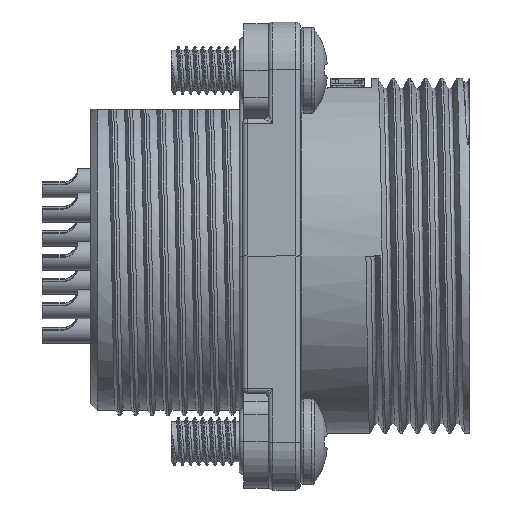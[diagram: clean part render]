
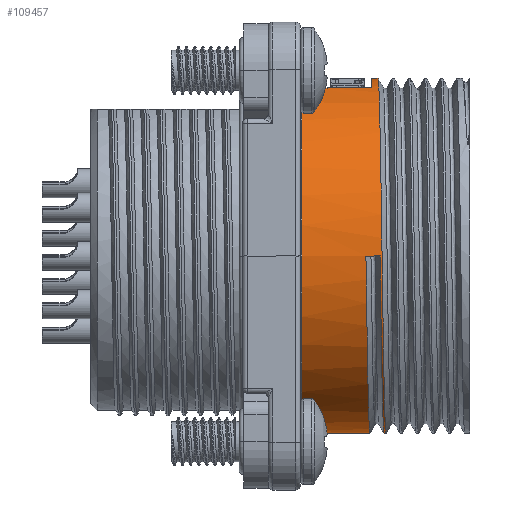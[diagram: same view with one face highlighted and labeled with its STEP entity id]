
A CAD part, front view. The second image highlights one B-rep face of the part: STEP entity #109457.
In plain terms, the highlighted cylindrical face has radius 11 mm (diameter 22 mm), a partial arc.
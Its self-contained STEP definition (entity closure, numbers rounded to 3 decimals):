
#96363=DIRECTION('',(1.,0.,0.));
#96364=VECTOR('',#96363,1.3);
#96365=CARTESIAN_POINT('',(13.1,0.,11.));
#96366=LINE('',#96365,#96364);
#96367=DIRECTION('',(1.,0.,0.));
#96368=VECTOR('',#96367,0.412);
#96369=CARTESIAN_POINT('',(17.4,0.,11.));
#96370=LINE('',#96369,#96368);
#96371=CARTESIAN_POINT('',(17.812,0.,
11.));
#96372=CARTESIAN_POINT('',(17.821,-0.55,
11.));
#96373=CARTESIAN_POINT('',(17.836,-1.647,
10.917));
#96374=CARTESIAN_POINT('',(17.86,-3.246,
10.553));
#96375=CARTESIAN_POINT('',(17.884,-4.771,
9.957));
#96376=CARTESIAN_POINT('',(17.907,-6.202,
9.136));
#96377=CARTESIAN_POINT('',(17.932,-7.509,
8.095));
#96378=CARTESIAN_POINT('',(17.955,-8.625,
6.893));
#96379=CARTESIAN_POINT('',(17.979,-9.559,
5.526));
#96380=CARTESIAN_POINT('',(18.003,-10.276,
4.04));
#96381=CARTESIAN_POINT('',(18.027,-10.763,
2.46));
#96382=CARTESIAN_POINT('',(18.05,-11.008,
0.845));
#96383=CARTESIAN_POINT('',(18.074,-11.012,
-0.812));
#96384=CARTESIAN_POINT('',(18.098,-10.766,
-2.45));
#96385=CARTESIAN_POINT('',(18.122,-10.283,
-4.018));
#96386=CARTESIAN_POINT('',(18.145,-9.577,
-5.494));
#96387=CARTESIAN_POINT('',(18.169,-8.644,
-6.87));
#96388=CARTESIAN_POINT('',(18.193,-7.518,
-8.086));
#96389=CARTESIAN_POINT('',(18.217,-6.238,
-9.11));
#96390=CARTESIAN_POINT('',(18.241,-4.817,
-9.935));
#96391=CARTESIAN_POINT('',(18.265,-3.265,
-10.548));
#96392=CARTESIAN_POINT('',(18.289,-1.638,
-10.919));
#96393=CARTESIAN_POINT('',(18.304,-0.544,
-11.));
#96394=CARTESIAN_POINT('',(18.312,0.,
-11.));
#96396=DIRECTION('',(-1.,0.,0.));
#96397=VECTOR('',#96396,0.124);
#96398=CARTESIAN_POINT('',(18.312,0.,
-11.));
#96399=LINE('',#96398,#96397);
#96400=CARTESIAN_POINT('',(18.188,0.,
-11.));
#96401=CARTESIAN_POINT('',(18.18,-0.522,
-11.));
#96402=CARTESIAN_POINT('',(18.165,-1.569,
-10.926));
#96403=CARTESIAN_POINT('',(18.142,-3.113,
-10.59));
#96404=CARTESIAN_POINT('',(18.119,-4.601,
-10.033));
#96405=CARTESIAN_POINT('',(18.096,-5.98,
-9.277));
#96406=CARTESIAN_POINT('',(18.074,-7.238,
-8.333));
#96407=CARTESIAN_POINT('',(18.051,-8.347,
-7.221));
#96408=CARTESIAN_POINT('',(18.028,-9.289,
-5.961));
#96409=CARTESIAN_POINT('',(18.006,-10.039,
-4.586));
#96410=CARTESIAN_POINT('',(17.983,-10.588,
-3.117));
#96411=CARTESIAN_POINT('',(17.96,-10.926,
-1.569));
#96412=CARTESIAN_POINT('',(17.945,-11.,
-0.523));
#96413=CARTESIAN_POINT('',(17.938,-11.,
0.));
#96415=DIRECTION('',(-1.,0.,0.));
#96416=VECTOR('',#96415,0.876);
#96417=CARTESIAN_POINT('',(17.938,-11.,
0.));
#96418=LINE('',#96417,#96416);
#96419=CARTESIAN_POINT('',(17.062,-11.,
0.));
#96420=CARTESIAN_POINT('',(17.07,-11.,
-0.524));
#96421=CARTESIAN_POINT('',(17.085,-10.926,
-1.572));
#96422=CARTESIAN_POINT('',(17.108,-10.587,
-3.124));
#96423=CARTESIAN_POINT('',(17.131,-10.036,
-4.594));
#96424=CARTESIAN_POINT('',(17.153,-9.284,
-5.97));
#96425=CARTESIAN_POINT('',(17.176,-8.34,
-7.229));
#96426=CARTESIAN_POINT('',(17.199,-7.23,
-8.34));
#96427=CARTESIAN_POINT('',(17.222,-5.972,
-9.282));
#96428=CARTESIAN_POINT('',(17.244,-4.593,
-10.037));
#96429=CARTESIAN_POINT('',(17.267,-3.107,
-10.592));
#96430=CARTESIAN_POINT('',(17.29,-1.565,
-10.926));
#96431=CARTESIAN_POINT('',(17.305,-0.521,
-11.));
#96432=CARTESIAN_POINT('',(17.312,0.,
-11.));
#96434=DIRECTION('',(-1.,0.,0.));
#96435=VECTOR('',#96434,4.212);
#96436=CARTESIAN_POINT('',(17.312,0.,
-11.));
#96437=LINE('',#96436,#96435);
#96438=CARTESIAN_POINT('',(13.1,0.,0.));
#96439=DIRECTION('',(1.,0.,0.));
#96440=DIRECTION('',(0.,0.,1.));
#96441=AXIS2_PLACEMENT_3D('',#96438,#96439,#96440);
#96481=CARTESIAN_POINT('',(17.812,0.,
11.));
#97340=CARTESIAN_POINT('',(18.312,0.,
-11.));
#97388=CARTESIAN_POINT('',(18.188,0.,
-11.));
#97426=CARTESIAN_POINT('',(17.4,0.,0.));
#97427=DIRECTION('',(1.,0.,0.));
#97428=DIRECTION('',(0.,0.,1.));
#97429=AXIS2_PLACEMENT_3D('',#97426,#97427,#97428);
#97439=DIRECTION('',(-1.,0.,0.));
#97440=VECTOR('',#97439,3.);
#97441=CARTESIAN_POINT('',(17.4,-3.5,10.428));
#97442=LINE('',#97441,#97440);
#97464=CARTESIAN_POINT('',(14.4,0.,0.));
#97465=DIRECTION('',(-1.,0.,0.));
#97466=DIRECTION('',(0.,-0.318,0.948));
#97467=AXIS2_PLACEMENT_3D('',#97464,#97465,#97466);
#100898=VERTEX_POINT('',#97340);
#100901=VERTEX_POINT('',#97388);
#100924=CARTESIAN_POINT('',(13.1,0.,-11.));
#100925=CARTESIAN_POINT('',(13.1,0.,11.));
#100926=VERTEX_POINT('',#100924);
#100927=VERTEX_POINT('',#100925);
#100928=CARTESIAN_POINT('',(17.312,0.,
-11.));
#100929=VERTEX_POINT('',#100928);
#100930=VERTEX_POINT('',#96481);
#100932=CARTESIAN_POINT('',(17.4,0.,11.));
#100934=VERTEX_POINT('',#100932);
#100937=CARTESIAN_POINT('',(14.4,0.,11.));
#100938=VERTEX_POINT('',#100937);
#100946=CARTESIAN_POINT('',(17.938,-11.,
0.));
#100948=VERTEX_POINT('',#100946);
#100950=CARTESIAN_POINT('',(17.062,-11.,
0.));
#100951=VERTEX_POINT('',#100950);
#101081=CARTESIAN_POINT('',(14.4,-3.5,10.428));
#101082=VERTEX_POINT('',#101081);
#101083=CARTESIAN_POINT('',(17.4,-3.5,10.428));
#101084=VERTEX_POINT('',#101083);
#109428=CARTESIAN_POINT('',(12.892,0.,0.));
#109429=DIRECTION('',(1.,0.,0.));
#109430=DIRECTION('',(0.,0.,-1.));
#109431=AXIS2_PLACEMENT_3D('',#109428,#109429,#109430);
#109432=CYLINDRICAL_SURFACE('',#109431,11.);
#109434=ORIENTED_EDGE('',*,*,#109433,.F.);
#109436=ORIENTED_EDGE('',*,*,#109435,.T.);
#109438=ORIENTED_EDGE('',*,*,#109437,.F.);
#109440=ORIENTED_EDGE('',*,*,#109439,.F.);
#109442=ORIENTED_EDGE('',*,*,#109441,.F.);
#109444=ORIENTED_EDGE('',*,*,#109443,.T.);
#109446=ORIENTED_EDGE('',*,*,#109445,.T.);
#109448=ORIENTED_EDGE('',*,*,#109447,.T.);
#109449=ORIENTED_EDGE('',*,*,#109190,.T.);
#109450=ORIENTED_EDGE('',*,*,#109412,.T.);
#109452=ORIENTED_EDGE('',*,*,#109451,.T.);
#109454=ORIENTED_EDGE('',*,*,#109453,.T.);
#109455=EDGE_LOOP('',(#109434,#109436,#109438,#109440,#109442,#109444,#109446,
#109448,#109449,#109450,#109452,#109454));
#109456=FACE_OUTER_BOUND('',#109455,.F.);
#109457=ADVANCED_FACE('',(#109456),#109432,.T.);
#96395=B_SPLINE_CURVE_WITH_KNOTS('',3,(#96371,#96372,#96373,#96374,#96375,
#96376,#96377,#96378,#96379,#96380,#96381,#96382,#96383,#96384,#96385,#96386,
#96387,#96388,#96389,#96390,#96391,#96392,#96393,#96394),.UNSPECIFIED.,.F.,.F.,(
4,1,1,1,1,1,1,1,1,1,1,1,1,1,1,1,1,1,1,1,1,4),(0.,0.048,
0.095,0.143,0.19,0.238,
0.286,0.333,0.381,0.429,
0.476,0.524,0.571,0.619,
0.667,0.714,0.762,0.81,
0.857,0.905,0.952,1.),.UNSPECIFIED.);
#96414=B_SPLINE_CURVE_WITH_KNOTS('',3,(#96400,#96401,#96402,#96403,#96404,
#96405,#96406,#96407,#96408,#96409,#96410,#96411,#96412,#96413),.UNSPECIFIED.,
.F.,.F.,(4,1,1,1,1,1,1,1,1,1,1,4),(0.,0.091,0.182,
0.273,0.364,0.455,0.545,
0.636,0.727,0.818,0.909,1.),
.UNSPECIFIED.);
#96433=B_SPLINE_CURVE_WITH_KNOTS('',3,(#96419,#96420,#96421,#96422,#96423,
#96424,#96425,#96426,#96427,#96428,#96429,#96430,#96431,#96432),.UNSPECIFIED.,
.F.,.F.,(4,1,1,1,1,1,1,1,1,1,1,4),(0.,0.091,0.182,
0.273,0.364,0.455,0.545,
0.636,0.727,0.818,0.909,1.),
.UNSPECIFIED.);
#96442=CIRCLE('',#96441,11.);
#97430=CIRCLE('',#97429,11.);
#97468=CIRCLE('',#97467,11.);
#109190=EDGE_CURVE('',#100901,#100948,#96414,.T.);
#109412=EDGE_CURVE('',#100948,#100951,#96418,.T.);
#109433=EDGE_CURVE('',#100927,#100926,#96442,.T.);
#109435=EDGE_CURVE('',#100927,#100938,#96366,.T.);
#109437=EDGE_CURVE('',#101082,#100938,#97468,.T.);
#109439=EDGE_CURVE('',#101084,#101082,#97442,.T.);
#109441=EDGE_CURVE('',#100934,#101084,#97430,.T.);
#109443=EDGE_CURVE('',#100934,#100930,#96370,.T.);
#109445=EDGE_CURVE('',#100930,#100898,#96395,.T.);
#109447=EDGE_CURVE('',#100898,#100901,#96399,.T.);
#109451=EDGE_CURVE('',#100951,#100929,#96433,.T.);
#109453=EDGE_CURVE('',#100929,#100926,#96437,.T.);
